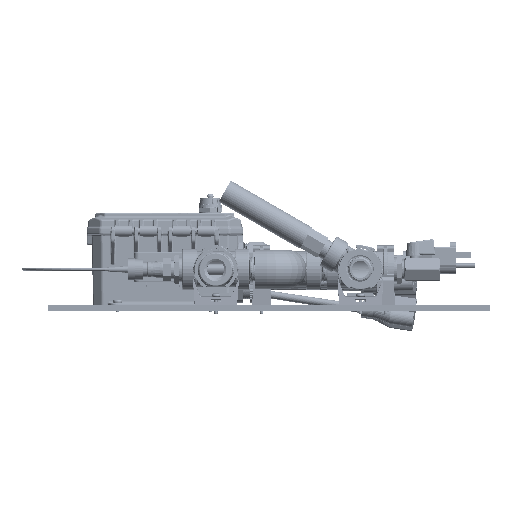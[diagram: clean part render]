
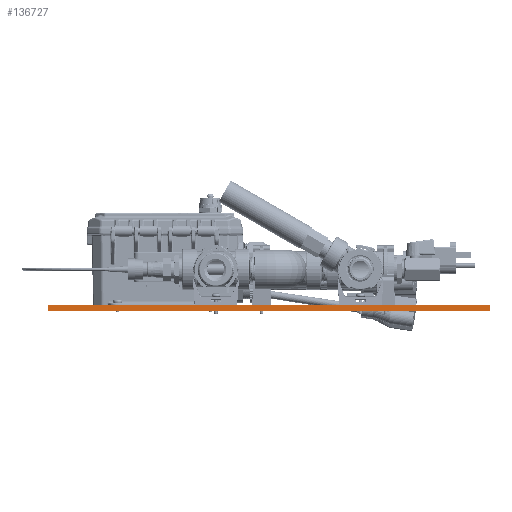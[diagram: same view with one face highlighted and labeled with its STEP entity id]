
A CAD part, left-side view. The second image highlights one B-rep face of the part: STEP entity #136727.
In plain terms, the highlighted planar face has unit normal (-1, 0, 0).
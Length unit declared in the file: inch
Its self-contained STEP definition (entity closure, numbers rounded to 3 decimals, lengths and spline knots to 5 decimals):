
#11840 = ORIENTED_EDGE ( 'NONE', *, *, #175099, .T. ) ;
#24201 = VECTOR ( 'NONE', #336449, 39.37008 ) ;
#44289 = VERTEX_POINT ( 'NONE', #380192 ) ;
#56845 = EDGE_LOOP ( 'NONE', ( #11840, #231627, #76845, #437380 ) ) ;
#76845 = ORIENTED_EDGE ( 'NONE', *, *, #494948, .F. ) ;
#77161 = CARTESIAN_POINT ( 'NONE',  ( 0., 19., 0.25 ) ) ;
#107461 = DIRECTION ( 'NONE',  ( 0., -1., 0. ) ) ;
#120806 = CARTESIAN_POINT ( 'NONE',  ( 0., 0., 0.25 ) ) ;
#121640 = LINE ( 'NONE', #296682, #326369 ) ;
#136727 = ADVANCED_FACE ( 'NONE', ( #338838 ), #513646, .F. ) ;
#141068 = VECTOR ( 'NONE', #252107, 39.37008 ) ;
#161442 = CARTESIAN_POINT ( 'NONE',  ( 0., 0., 0.25 ) ) ;
#175099 = EDGE_CURVE ( 'NONE', #321453, #44289, #325489, .T. ) ;
#181431 = AXIS2_PLACEMENT_3D ( 'NONE', #120806, #295835, #470704 ) ;
#203711 = VERTEX_POINT ( 'NONE', #441689 ) ;
#224512 = VERTEX_POINT ( 'NONE', #292350 ) ;
#231627 = ORIENTED_EDGE ( 'NONE', *, *, #306023, .F. ) ;
#252107 = DIRECTION ( 'NONE',  ( 0., 0., -1. ) ) ;
#292350 = CARTESIAN_POINT ( 'NONE',  ( 0., 19., 0.25 ) ) ;
#295835 = DIRECTION ( 'NONE',  ( 1., 0., 0. ) ) ;
#296682 = CARTESIAN_POINT ( 'NONE',  ( 0., 0., 0.25 ) ) ;
#306023 = EDGE_CURVE ( 'NONE', #203711, #44289, #554283, .T. ) ;
#321453 = VERTEX_POINT ( 'NONE', #560619 ) ;
#325489 = LINE ( 'NONE', #500302, #447626 ) ;
#326369 = VECTOR ( 'NONE', #471550, 39.37008 ) ;
#336449 = DIRECTION ( 'NONE',  ( 0., 0., -1. ) ) ;
#338838 = FACE_OUTER_BOUND ( 'NONE', #56845, .T. ) ;
#380192 = CARTESIAN_POINT ( 'NONE',  ( 0., 0., 0. ) ) ;
#437380 = ORIENTED_EDGE ( 'NONE', *, *, #554486, .T. ) ;
#441689 = CARTESIAN_POINT ( 'NONE',  ( 0., 0., 0.25 ) ) ;
#447626 = VECTOR ( 'NONE', #107461, 39.37008 ) ;
#470008 = LINE ( 'NONE', #77161, #141068 ) ;
#470704 = DIRECTION ( 'NONE',  ( 0., 0., -1. ) ) ;
#471550 = DIRECTION ( 'NONE',  ( 0., -1., 0. ) ) ;
#494948 = EDGE_CURVE ( 'NONE', #224512, #203711, #121640, .T. ) ;
#500302 = CARTESIAN_POINT ( 'NONE',  ( 0., 0., 0. ) ) ;
#513646 = PLANE ( 'NONE',  #181431 ) ;
#554283 = LINE ( 'NONE', #161442, #24201 ) ;
#554486 = EDGE_CURVE ( 'NONE', #224512, #321453, #470008, .T. ) ;
#560619 = CARTESIAN_POINT ( 'NONE',  ( 0., 19., 0. ) ) ;
